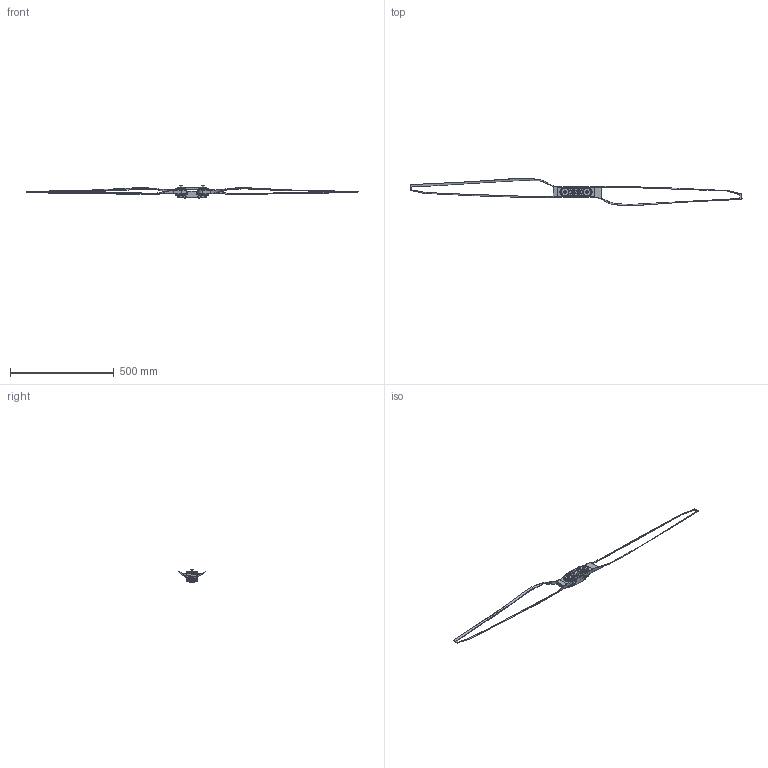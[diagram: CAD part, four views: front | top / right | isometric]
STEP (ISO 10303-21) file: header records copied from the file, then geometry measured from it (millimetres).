
FILE_DESCRIPTION (( 'STEP AP214' ), '1' );
FILE_NAME ('EFZ6324芢薯蔑珔.STEP', '2026-06-24T09:29:02', ( '' ), ( '' ), 'SwSTEP 2.0', 'SolidWorks 2022', '' );
FILE_SCHEMA (( 'AUTOMOTIVE_DESIGN' ));
Length unit declared in the file: millimetre
Products named in the file (7): 桨夹上板; 桨夹下板; EFZ6324推力桨叶; 垫片; 轴套; 螺丝; 桨叶
Assembly tree (11 placements, depth 2):
  EFZ6324推力桨叶
    桨夹下板
    轴套  x2
    垫片  x4
    桨叶
    桨夹上板
    螺丝  x2
Bounding box: 1600.2 x 132.71 x 62.4 mm (x, y, z)
Volume: 377592.7 mm3; surface area: 147390.2 mm2
Topology: 12 solids, 12 shells, 691 faces, 1881 edges, 1216 vertices
Faces by surface type: cylinder 239, plane 239, cone 131, bspline 82
Entity records: 41812 total; most frequent: CARTESIAN_POINT 19703, ORIENTED_EDGE 3450, DIRECTION 2757, EDGE_CURVE 1725, VERTEX_POINT 1127, AXIS2_PLACEMENT_3D 1024, VECTOR 709, LINE 709
